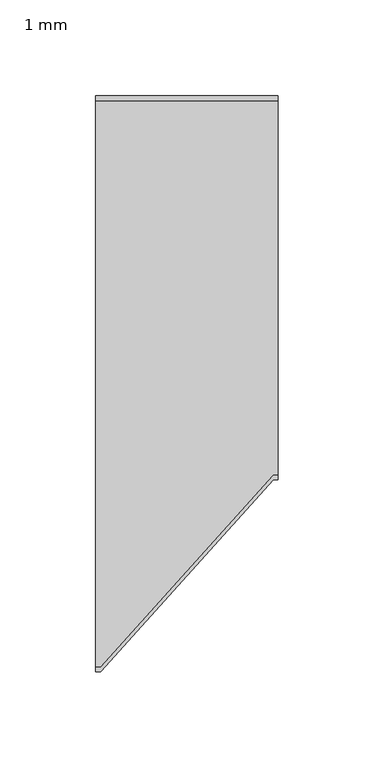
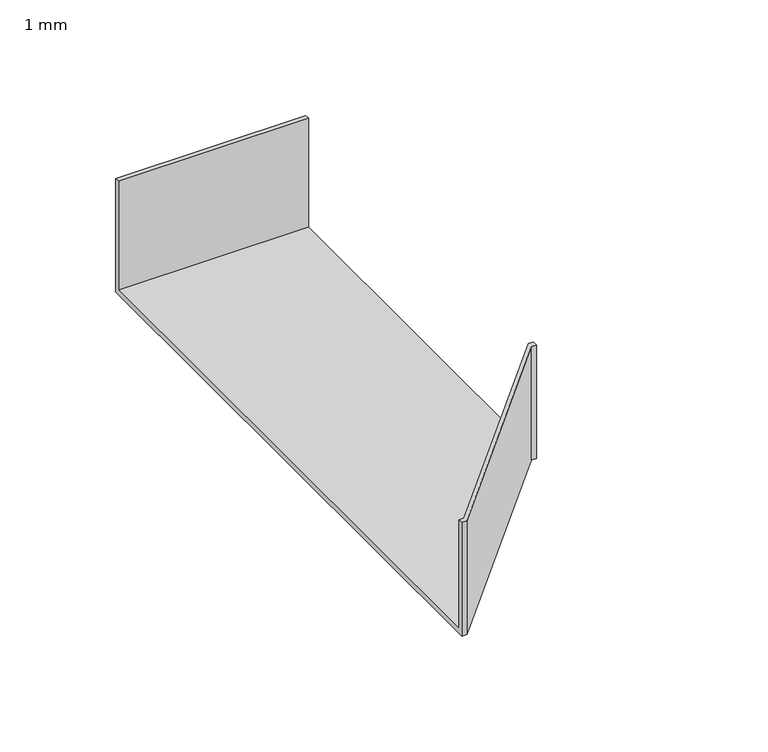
"""IFC4 building model written with IfcOpenShell, lengths in millimetres: cable carrier fitting geometry, BAKS_Redukcja E90 : 1 mm."""

from ifc_helpers import new_model, si_unit, origin, place, context, project, spatial, faceted_brep, source, transform, mapped, element, save


def cable_carrier_fitting_1_mm_529289f4(model_context):
    return source(origin(), model_context, "Body", "Brep", [
        faceted_brep([(0.0, -150.0, -30.0), (0.0, -150.0, 30.0), (0.0, -147.46, 30.0), (0.0, -147.46, -27.46), (0.0, 147.46, -27.46), (0.0, 147.46, 30.0), (0.0, 150.0, 30.0), (0.0, 150.0, -30.0), (95.0, -50.0, -30.0), (95.0, 150.0, -30.0), (95.0, 150.0, 30.0), (95.0, 147.46, 30.0), (95.0, 147.46, -27.46), (95.0, -47.46, -27.46), (95.0, -47.46, 30.0), (95.0, -50.0, 30.0), (2.5, -150.0, -30.0), (2.5, -150.0, 30.0), (92.5, -50.0, 30.0), (92.5, -47.46, 30.0), (2.5, -147.46, 30.0), (2.5, -147.46, -27.46), (92.5, -47.46, -27.46), (92.5, -50.0, -30.0)], [[[0, 1, 2, 3, 4, 5, 6, 7]], [[8, 9, 10, 11, 12, 13, 14, 15]], [[1, 0, 16, 17]], [[2, 1, 17, 18, 15, 14, 19, 20]], [[3, 2, 20, 21]], [[4, 3, 21, 22, 13, 12]], [[5, 4, 12, 11]], [[6, 5, 11, 10]], [[7, 6, 10, 9]], [[0, 7, 9, 8, 23, 16]], [[8, 15, 18, 23]], [[14, 13, 22, 19]], [[22, 21, 20, 19]], [[16, 23, 18, 17]]]),
    ])


if __name__ == "__main__":
    model = new_model("IFC4")
    model_context = context("Model", 3, world=origin())
    ifc_project = project(units=[si_unit("LENGTHUNIT", "METRE", prefix="MILLI")], contexts=[model_context])
    site = spatial("IfcSite", under=ifc_project)
    building = spatial("IfcBuilding", under=site)
    placement = place(None, origin())
    cable_carrier_fitting_1_mm_shape = cable_carrier_fitting_1_mm_529289f4(model_context)
    element("IfcCableCarrierFitting", 1, ObjectType="BAKS_Redukcja E90 : 1 mm", at=placement, inside=building, context=model_context, shape_type="MappedRepresentation", body=[
        mapped(cable_carrier_fitting_1_mm_shape, transform((0.0, 0.0, 0.0), x_axis=(1.0, 0.0, 0.0), y_axis=(0.0, 1.0, 0.0), z_axis=(0.0, 0.0, 1.0))),
    ])
    save(model, "model.ifc")
